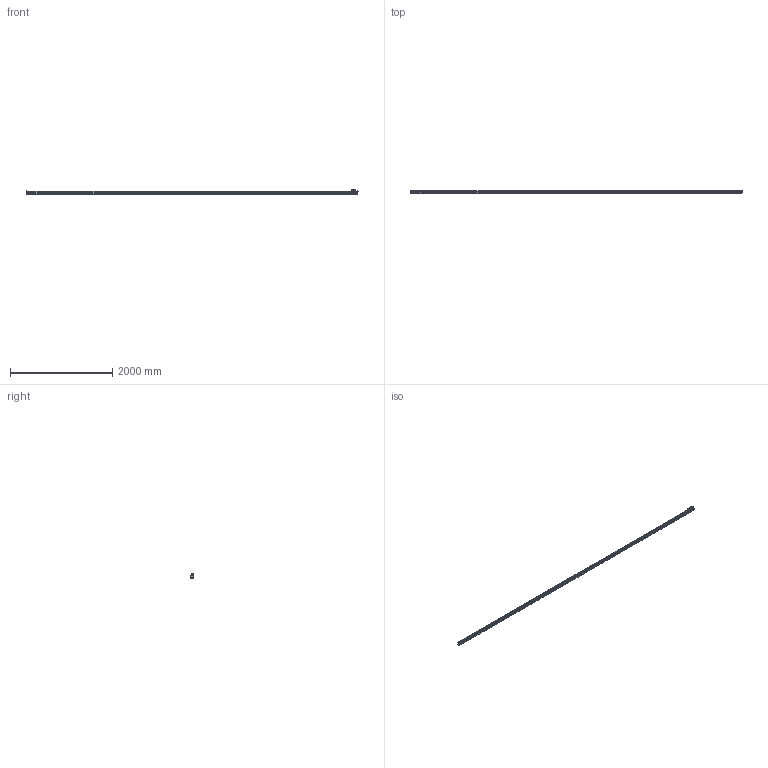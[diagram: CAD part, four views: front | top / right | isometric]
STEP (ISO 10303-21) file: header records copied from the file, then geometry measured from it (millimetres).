
FILE_DESCRIPTION(('Creo Elements/Direct Modeling STEP Export'),'2;1');
FILE_NAME('REGLA_L3_6240_T.stp','2021-02-04T13:20:36',(''),(''),'Creo Elements/Direct Modeling STEP processor for AP214 (Solid Model)','Creo Elements/Direct Modeling 19.0G 27-Nov-2017 (C) Parametric Technology GmbH','');
FILE_SCHEMA(('AUTOMOTIVE_DESIGN { 1 0 10303 214 1 1 1 1 }'));
Products named in the file (3): PERFIL_L3_6240; CABEZA_L3_T_M6; MOD_L3_6240_T
Assembly tree (2 placements, depth 2):
  MOD_L3_6240_T
    CABEZA_L3_T_M6
    PERFIL_L3_6240
Bounding box: 6490 x 50 x 85 mm (x, y, z)
Volume: 16834087.1 mm3; surface area: 1882101.5 mm2
Topology: 2 solids, 2 shells, 2282 faces, 6542 edges, 4365 vertices
Faces by surface type: plane 1146, cylinder 783, cone 238, bspline 59, torus 50, extrusion 6
Entity records: 90531 total; most frequent: CARTESIAN_POINT 25716, ORIENTED_EDGE 13068, DIRECTION 11556, EDGE_CURVE 6534, VERTEX_POINT 4365, VECTOR 4108, LINE 4102, AXIS2_PLACEMENT_3D 3724
